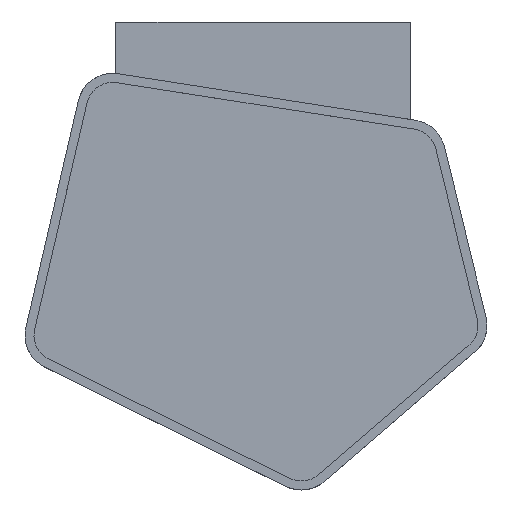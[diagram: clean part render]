
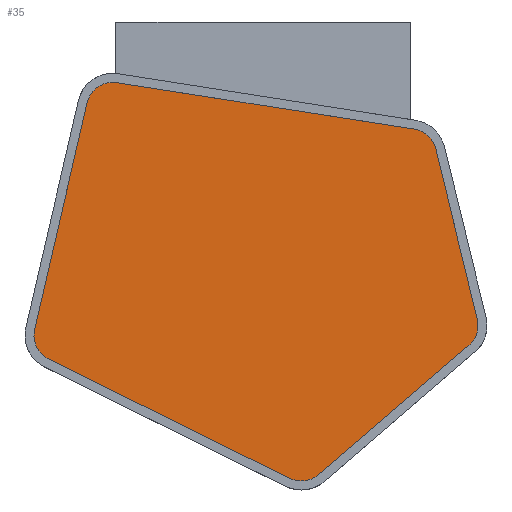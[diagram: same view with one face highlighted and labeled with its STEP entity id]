
A CAD part, top view. The second image highlights one B-rep face of the part: STEP entity #35.
In plain terms, the highlighted planar face has unit normal (0, 0, 1).
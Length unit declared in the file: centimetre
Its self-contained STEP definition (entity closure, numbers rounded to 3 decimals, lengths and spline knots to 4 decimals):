
#35=ADVANCED_FACE('',(#62),#454,.T.);
#62=FACE_OUTER_BOUND('',#89,.T.);
#89=EDGE_LOOP('',(#179,#180,#181,#182,#183,#184,#185,#186,#187,#188));
#179=ORIENTED_EDGE('',*,*,#311,.F.);
#180=ORIENTED_EDGE('',*,*,#298,.F.);
#181=ORIENTED_EDGE('',*,*,#295,.F.);
#182=ORIENTED_EDGE('',*,*,#292,.F.);
#183=ORIENTED_EDGE('',*,*,#289,.F.);
#184=ORIENTED_EDGE('',*,*,#286,.F.);
#185=ORIENTED_EDGE('',*,*,#283,.F.);
#186=ORIENTED_EDGE('',*,*,#280,.F.);
#187=ORIENTED_EDGE('',*,*,#276,.F.);
#188=ORIENTED_EDGE('',*,*,#312,.F.);
#276=EDGE_CURVE('',#411,#410,#342,.T.);
#280=EDGE_CURVE('',#410,#413,#371,.T.);
#283=EDGE_CURVE('',#413,#415,#346,.T.);
#286=EDGE_CURVE('',#415,#417,#374,.T.);
#289=EDGE_CURVE('',#417,#419,#349,.T.);
#292=EDGE_CURVE('',#419,#421,#377,.T.);
#295=EDGE_CURVE('',#421,#423,#352,.T.);
#298=EDGE_CURVE('',#423,#425,#380,.T.);
#311=EDGE_CURVE('',#425,#432,#362,.T.);
#312=EDGE_CURVE('',#432,#411,#384,.T.);
#342=(
BOUNDED_CURVE()
B_SPLINE_CURVE(2,(#772,#773,#774),.UNSPECIFIED.,.F.,.F.)
B_SPLINE_CURVE_WITH_KNOTS((3,3),(-155.7536,-151.2262),
 .UNSPECIFIED.)
CURVE()
GEOMETRIC_REPRESENTATION_ITEM()
RATIONAL_B_SPLINE_CURVE((1.,0.832,1.))
REPRESENTATION_ITEM('')
);
#346=(
BOUNDED_CURVE()
B_SPLINE_CURVE(2,(#788,#789,#790),.UNSPECIFIED.,.F.,.F.)
B_SPLINE_CURVE_WITH_KNOTS((3,3),(-131.5472,-127.2066),
 .UNSPECIFIED.)
CURVE()
GEOMETRIC_REPRESENTATION_ITEM()
RATIONAL_B_SPLINE_CURVE((1.,0.853,1.))
REPRESENTATION_ITEM('')
);
#349=(
BOUNDED_CURVE()
B_SPLINE_CURVE(2,(#802,#803,#804),.UNSPECIFIED.,.F.,.F.)
B_SPLINE_CURVE_WITH_KNOTS((3,3),(-104.9412,-100.3223),
 .UNSPECIFIED.)
CURVE()
GEOMETRIC_REPRESENTATION_ITEM()
RATIONAL_B_SPLINE_CURVE((1.,0.834,1.))
REPRESENTATION_ITEM('')
);
#352=(
BOUNDED_CURVE()
B_SPLINE_CURVE(2,(#816,#817,#818),.UNSPECIFIED.,.F.,.F.)
B_SPLINE_CURVE_WITH_KNOTS((3,3),(-70.1205,-64.8349),
 .UNSPECIFIED.)
CURVE()
GEOMETRIC_REPRESENTATION_ITEM()
RATIONAL_B_SPLINE_CURVE((1.,0.784,1.))
REPRESENTATION_ITEM('')
);
#362=(
BOUNDED_CURVE()
B_SPLINE_CURVE(2,(#853,#854,#855,#856,#857),.UNSPECIFIED.,.F.,.F.)
B_SPLINE_CURVE_WITH_KNOTS((3,2,3),(-38.7006,-33.0681,
-32.9366),.UNSPECIFIED.)
CURVE()
GEOMETRIC_REPRESENTATION_ITEM()
RATIONAL_B_SPLINE_CURVE((1.,0.738,0.988,0.994,
1.))
REPRESENTATION_ITEM('')
);
#371=B_SPLINE_CURVE_WITH_KNOTS('',1,(#781,#782),.UNSPECIFIED.,.F.,.F.,(2,
2),(-151.2262,-131.5472),.UNSPECIFIED.);
#374=B_SPLINE_CURVE_WITH_KNOTS('',1,(#795,#796),.UNSPECIFIED.,.F.,.F.,(2,
2),(-127.2066,-104.9412),.UNSPECIFIED.);
#377=B_SPLINE_CURVE_WITH_KNOTS('',1,(#809,#810),.UNSPECIFIED.,.F.,.F.,(2,
2),(-100.3223,-70.1205),.UNSPECIFIED.);
#380=B_SPLINE_CURVE_WITH_KNOTS('',1,(#823,#824),.UNSPECIFIED.,.F.,.F.,(2,
2),(-64.8349,-38.7006),.UNSPECIFIED.);
#384=B_SPLINE_CURVE_WITH_KNOTS('',1,(#858,#859,#860),.UNSPECIFIED.,.F.,
 .F.,(2,1,2),(-32.9366,-0.4244,0.),.UNSPECIFIED.);
#410=VERTEX_POINT('',#660);
#411=VERTEX_POINT('',#661);
#413=VERTEX_POINT('',#663);
#415=VERTEX_POINT('',#665);
#417=VERTEX_POINT('',#667);
#419=VERTEX_POINT('',#669);
#421=VERTEX_POINT('',#671);
#423=VERTEX_POINT('',#673);
#425=VERTEX_POINT('',#675);
#432=VERTEX_POINT('',#682);
#454=PLANE('',#568);
#568=AXIS2_PLACEMENT_3D('',#628,#598,$);
#598=DIRECTION('',(0.,0.,1.));
#628=CARTESIAN_POINT('',(28.9427,12.7835,2.));
#660=CARTESIAN_POINT('',(20.026,11.9387,2.));
#661=CARTESIAN_POINT('',(17.64,14.132,2.));
#663=CARTESIAN_POINT('',(24.6518,-7.0424,2.));
#665=CARTESIAN_POINT('',(23.7192,-9.9469,2.));
#667=CARTESIAN_POINT('',(6.9624,-24.3624,2.));
#669=CARTESIAN_POINT('',(3.7636,-24.7658,2.));
#671=CARTESIAN_POINT('',(-23.11,-11.469,2.));
#673=CARTESIAN_POINT('',(-24.6596,-8.194,2.));
#675=CARTESIAN_POINT('',(-18.81,17.0832,2.));
#682=CARTESIAN_POINT('',(-15.5152,19.3096,2.));
#772=CARTESIAN_POINT('',(17.64,14.132,2.));
#773=CARTESIAN_POINT('',(19.5648,13.8314,2.));
#774=CARTESIAN_POINT('',(20.026,11.9387,2.));
#781=CARTESIAN_POINT('',(20.026,11.9387,2.));
#782=CARTESIAN_POINT('',(24.6518,-7.0424,2.));
#788=CARTESIAN_POINT('',(24.6518,-7.0424,2.));
#789=CARTESIAN_POINT('',(25.0753,-8.7803,2.));
#790=CARTESIAN_POINT('',(23.7192,-9.9469,2.));
#795=CARTESIAN_POINT('',(23.7192,-9.9469,2.));
#796=CARTESIAN_POINT('',(6.9624,-24.3624,2.));
#802=CARTESIAN_POINT('',(6.9624,-24.3624,2.));
#803=CARTESIAN_POINT('',(5.4966,-25.6233,2.));
#804=CARTESIAN_POINT('',(3.7636,-24.7658,2.));
#809=CARTESIAN_POINT('',(3.7636,-24.7658,2.));
#810=CARTESIAN_POINT('',(-23.11,-11.469,2.));
#816=CARTESIAN_POINT('',(-23.11,-11.469,2.));
#817=CARTESIAN_POINT('',(-25.1804,-10.4445,2.));
#818=CARTESIAN_POINT('',(-24.6596,-8.194,2.));
#823=CARTESIAN_POINT('',(-24.6596,-8.194,2.));
#824=CARTESIAN_POINT('',(-18.81,17.0832,2.));
#853=CARTESIAN_POINT('',(-18.81,17.0832,2.));
#854=CARTESIAN_POINT('',(-18.2168,19.6467,2.));
#855=CARTESIAN_POINT('',(-15.6056,19.3223,2.));
#856=CARTESIAN_POINT('',(-15.5603,19.3166,2.));
#857=CARTESIAN_POINT('',(-15.5152,19.3096,2.));
#858=CARTESIAN_POINT('',(-15.5152,19.3096,2.));
#859=CARTESIAN_POINT('',(17.2127,14.1987,2.));
#860=CARTESIAN_POINT('',(17.64,14.132,2.));
